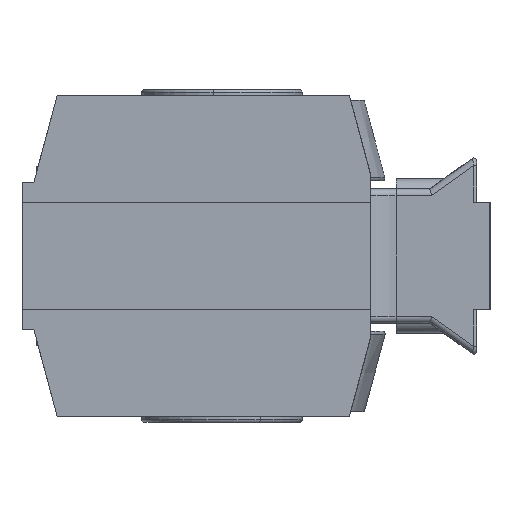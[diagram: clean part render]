
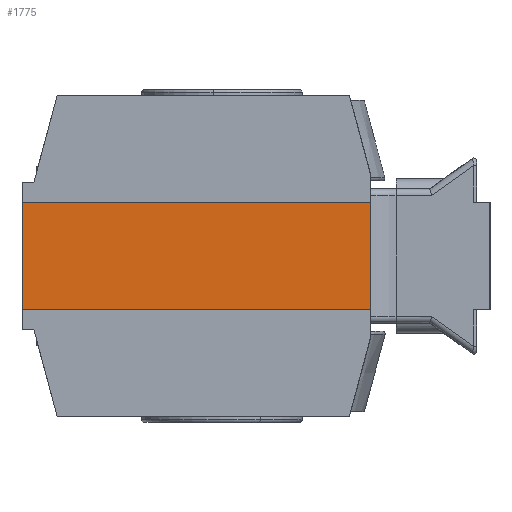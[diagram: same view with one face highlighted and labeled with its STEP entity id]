
A CAD part, left-side view. The second image highlights one B-rep face of the part: STEP entity #1775.
In plain terms, the highlighted planar face has unit normal (-1, 0, 0).
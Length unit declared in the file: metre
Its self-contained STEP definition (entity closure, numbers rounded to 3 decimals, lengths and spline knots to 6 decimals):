
#294 = VERTEX_POINT ( 'NONE', #7734 ) ;
#629 = ORIENTED_EDGE ( 'NONE', *, *, #5533, .F. ) ;
#1775 = ADVANCED_FACE ( 'NONE', ( #1882 ), #8982, .T. ) ;
#1882 = FACE_OUTER_BOUND ( 'NONE', #10497, .T. ) ;
#2092 = AXIS2_PLACEMENT_3D ( 'NONE', #8758, #8803, #8810 ) ;
#2290 = LINE ( 'NONE', #5382, #9783 ) ;
#2595 = CARTESIAN_POINT ( 'NONE',  ( -0.124104, 0.091025, 0.004 ) ) ;
#2639 = DIRECTION ( 'NONE',  ( 0., -1., 0. ) ) ;
#2662 = DIRECTION ( 'NONE',  ( 0., 0., -1. ) ) ;
#2750 = ORIENTED_EDGE ( 'NONE', *, *, #3492, .F. ) ;
#3301 = EDGE_CURVE ( 'NONE', #294, #5284, #9159, .T. ) ;
#3398 = VECTOR ( 'NONE', #2662, 1. ) ;
#3492 = EDGE_CURVE ( 'NONE', #294, #8439, #10424, .T. ) ;
#3968 = CARTESIAN_POINT ( 'NONE',  ( -0.124104, 0.081591, -0.004 ) ) ;
#4513 = DIRECTION ( 'NONE',  ( 0., 0., -1. ) ) ;
#5218 = VERTEX_POINT ( 'NONE', #5396 ) ;
#5284 = VERTEX_POINT ( 'NONE', #3968 ) ;
#5382 = CARTESIAN_POINT ( 'NONE',  ( -0.124104, 0.055591, 0.004 ) ) ;
#5396 = CARTESIAN_POINT ( 'NONE',  ( -0.124104, 0.055591, -0.004 ) ) ;
#5533 = EDGE_CURVE ( 'NONE', #8439, #5218, #2290, .T. ) ;
#5909 = ORIENTED_EDGE ( 'NONE', *, *, #7498, .T. ) ;
#6117 = CARTESIAN_POINT ( 'NONE',  ( -0.124104, 0.091025, -0.004 ) ) ;
#6184 = DIRECTION ( 'NONE',  ( 0., -1., 0. ) ) ;
#6608 = LINE ( 'NONE', #6117, #9403 ) ;
#7498 = EDGE_CURVE ( 'NONE', #5284, #5218, #6608, .T. ) ;
#7628 = VECTOR ( 'NONE', #2639, 1. ) ;
#7734 = CARTESIAN_POINT ( 'NONE',  ( -0.124104, 0.081591, 0.004 ) ) ;
#8439 = VERTEX_POINT ( 'NONE', #10376 ) ;
#8758 = CARTESIAN_POINT ( 'NONE',  ( -0.124104, 0.091025, 0.004 ) ) ;
#8803 = DIRECTION ( 'NONE',  ( -1., 0., 0. ) ) ;
#8810 = DIRECTION ( 'NONE',  ( 0., 0., 1. ) ) ;
#8982 = PLANE ( 'NONE',  #2092 ) ;
#9159 = LINE ( 'NONE', #10338, #3398 ) ;
#9403 = VECTOR ( 'NONE', #6184, 1. ) ;
#9783 = VECTOR ( 'NONE', #4513, 1. ) ;
#10338 = CARTESIAN_POINT ( 'NONE',  ( -0.124104, 0.081591, 0.004 ) ) ;
#10376 = CARTESIAN_POINT ( 'NONE',  ( -0.124104, 0.055591, 0.004 ) ) ;
#10424 = LINE ( 'NONE', #2595, #7628 ) ;
#10497 = EDGE_LOOP ( 'NONE', ( #2750, #10635, #5909, #629 ) ) ;
#10635 = ORIENTED_EDGE ( 'NONE', *, *, #3301, .T. ) ;
